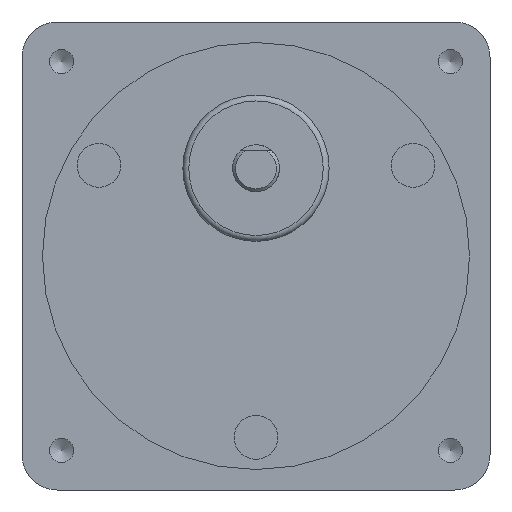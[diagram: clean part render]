
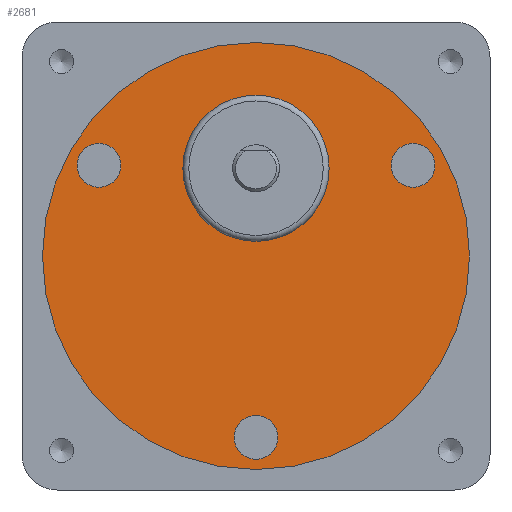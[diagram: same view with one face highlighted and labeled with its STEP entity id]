
A CAD part, front view. The second image highlights one B-rep face of the part: STEP entity #2681.
In plain terms, the highlighted planar face has unit normal (0, -1, 0).
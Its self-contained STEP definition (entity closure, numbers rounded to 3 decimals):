
#1504=CARTESIAN_POINT('',(24.972,-2.75,18.748));
#1505=VERTEX_POINT('',#1504);
#1506=CARTESIAN_POINT('',(26.847,-2.75,15.5));
#1507=DIRECTION('',(0.0,1.0,0.0));
#1508=DIRECTION('',(0.5,0.0,-0.866));
#1509=AXIS2_PLACEMENT_3D('',#1506,#1507,#1508);
#1510=CIRCLE('',#1509,3.75);
#1511=EDGE_CURVE('',#1505,#1505,#1510,.T.);
#1541=CARTESIAN_POINT('',(-28.722,-2.75,12.252));
#1542=VERTEX_POINT('',#1541);
#1543=CARTESIAN_POINT('',(-26.847,-2.75,15.5));
#1544=DIRECTION('',(0.0,1.0,0.0));
#1545=DIRECTION('',(0.5,0.0,0.866));
#1546=AXIS2_PLACEMENT_3D('',#1543,#1544,#1545);
#1547=CIRCLE('',#1546,3.75);
#1548=EDGE_CURVE('',#1542,#1542,#1547,.T.);
#1578=CARTESIAN_POINT('',(3.75,-2.75,-31.0));
#1579=VERTEX_POINT('',#1578);
#1580=CARTESIAN_POINT('',(0.0,-2.75,-31.0));
#1581=DIRECTION('',(0.0,1.0,0.0));
#1582=DIRECTION('',(-1.0,0.0,0.0));
#1583=AXIS2_PLACEMENT_3D('',#1580,#1581,#1582);
#1584=CIRCLE('',#1583,3.75);
#1585=EDGE_CURVE('',#1579,#1579,#1584,.T.);
#2630=CARTESIAN_POINT('',(36.5,-2.75,0.));
#2631=VERTEX_POINT('',#2630);
#2632=CARTESIAN_POINT('',(0.0,-2.75,0.0));
#2633=DIRECTION('',(0.0,-1.0,0.0));
#2634=DIRECTION('',(-1.0,0.0,0.0));
#2635=AXIS2_PLACEMENT_3D('',#2632,#2633,#2634);
#2636=CIRCLE('',#2635,36.5);
#2637=EDGE_CURVE('',#2631,#2631,#2636,.T.);
#2653=CARTESIAN_POINT('',(0.0,-2.75,0.0));
#2654=DIRECTION('',(0.0,1.0,0.0));
#2655=DIRECTION('',(0.0,0.0,1.0));
#2656=AXIS2_PLACEMENT_3D('',#2653,#2654,#2655);
#2657=PLANE('',#2656);
#2658=ORIENTED_EDGE('',*,*,#2637,.T.);
#2659=EDGE_LOOP('',(#2658));
#2660=FACE_OUTER_BOUND('',#2659,.T.);
#2661=ORIENTED_EDGE('',*,*,#1511,.T.);
#2662=EDGE_LOOP('',(#2661));
#2663=FACE_BOUND('',#2662,.T.);
#2664=ORIENTED_EDGE('',*,*,#1548,.T.);
#2665=EDGE_LOOP('',(#2664));
#2666=FACE_BOUND('',#2665,.T.);
#2667=ORIENTED_EDGE('',*,*,#1585,.T.);
#2668=EDGE_LOOP('',(#2667));
#2669=FACE_BOUND('',#2668,.T.);
#2670=CARTESIAN_POINT('',(12.5,-2.75,15.));
#2671=VERTEX_POINT('',#2670);
#2672=CARTESIAN_POINT('',(0.0,-2.75,15.0));
#2673=DIRECTION('',(0.0,-1.0,0.0));
#2674=DIRECTION('',(-1.0,0.0,0.0));
#2675=AXIS2_PLACEMENT_3D('',#2672,#2673,#2674);
#2676=CIRCLE('',#2675,12.5);
#2677=EDGE_CURVE('',#2671,#2671,#2676,.T.);
#2678=ORIENTED_EDGE('',*,*,#2677,.F.);
#2679=EDGE_LOOP('',(#2678));
#2680=FACE_BOUND('',#2679,.T.);
#2681=ADVANCED_FACE('',(#2660,#2663,#2666,#2669,#2680),#2657,.F.);
